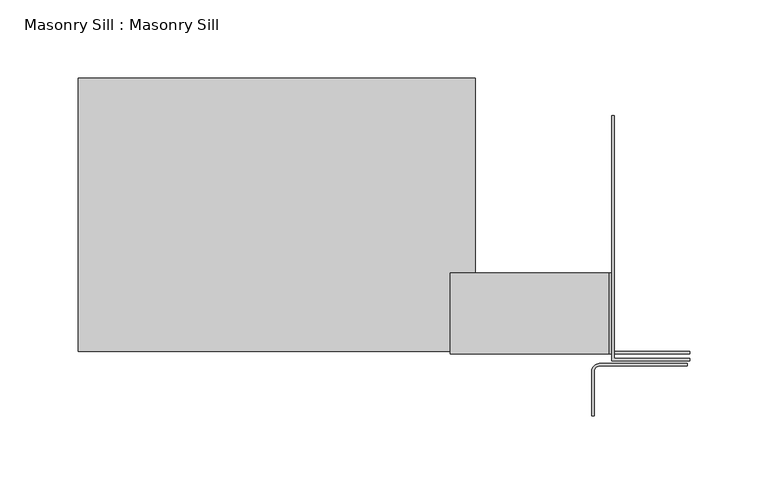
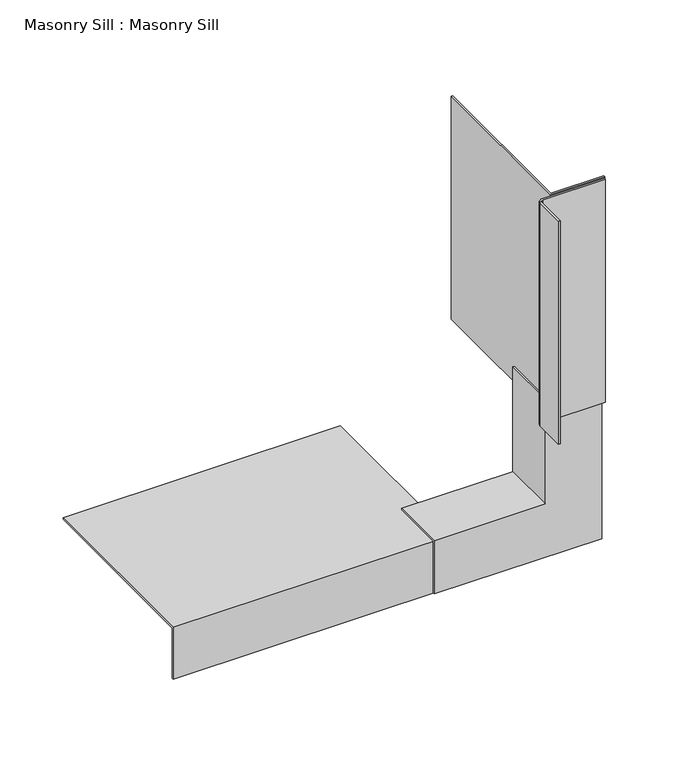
"""IFC4 building model written with IfcOpenShell, lengths in millimetres: proxy geometry, Masonry Sill : Masonry Sill."""

from ifc_helpers import new_model, si_unit, point, frame, frame_2d, origin, place, context, project, spatial, polyline, circle_curve, trimmed, segment, composite_curve, outline, extrude, faceted_brep, source, transform, mapped, element, save


def masonry_sill_masonry_sill_4dd9155f(model_context):
    return source(origin(), model_context, "Body", "SolidModel", [
        extrude(outline(composite_curve([segment(trimmed(circle_curve(frame_2d((26847.9476773, 619.6941297)), 3.175), [point((26847.9476773, 622.8691297))], [point((26844.7726773, 619.6941297))], True, "CARTESIAN"), True, "CONTINUOUS"), segment(polyline([(26844.7726773, 619.6941297), (26844.7726773, 591.1191297), (26843.1851773, 591.1191297), (26843.1851773, 619.6941297)]), True, "CONTINUOUS"), segment(trimmed(circle_curve(frame_2d((26847.9476773, 619.6941297)), 4.7625), [point((26843.1851773, 619.6941297))], [point((26847.9476773, 624.4566297))], False, "CARTESIAN"), True, "CONTINUOUS"), segment(polyline([(26847.9476773, 624.4566297), (26904.3024931, 624.4566297), (26904.3024931, 622.8691297), (26847.9476773, 622.8691297)]), True, "CONTINUOUS")], self_intersect=False)), frame((0.0, 0.0, 546.1), z_axis=(0.0, 0.0, 1.0), x_axis=(1.0, 0.0, 0.0)), (0.0, 0.0, 1.0), 215.9),
        extrude(outline(polyline([(26855.8851773, 626.0441297), (26855.8851773, 783.2066297), (26857.4726773, 783.2066297), (26857.4726773, 627.6316297), (26905.8899931, 627.6316297), (26905.8899931, 626.0441297), (26855.8851773, 626.0441297)])), frame((0.0, 0.0, 546.1), z_axis=(0.0, 0.0, 1.0), x_axis=(1.0, 0.0, 0.0)), (0.0, 0.0, 1.0), 215.9),
        faceted_brep([(26752.6976773, 630.8066297, 408.7826842), (26752.6976773, 630.8066297, 460.375), (26752.6976773, 682.3989454, 460.375), (26752.6976773, 682.3989454, 458.7875), (26752.6976773, 632.3941297, 458.7875), (26752.6976773, 632.3941297, 408.7826842), (26905.8899931, 632.3941297, 408.7826842), (26905.8899931, 630.8066297, 408.7826842), (26855.8851773, 632.3941297, 458.7875), (26855.8851773, 632.3941297, 561.975), (26905.8899931, 632.3941297, 561.975), (26855.8851773, 682.3989454, 458.7875), (26854.2976773, 682.3989454, 460.375), (26854.2976773, 682.3989454, 561.975), (26855.8851773, 682.3989454, 561.975), (26854.2976773, 630.8066297, 460.375), (26905.8899931, 630.8066297, 561.975), (26854.2976773, 630.8066297, 561.975)], [[[0, 1, 2, 3, 4, 5]], [[0, 5, 6, 7]], [[5, 4, 8, 9, 10, 6]], [[4, 3, 11, 8]], [[3, 2, 12, 13, 14, 11]], [[2, 1, 15, 12]], [[1, 0, 7, 16, 17, 15]], [[16, 10, 9, 14, 13, 17]], [[7, 6, 10, 16]], [[8, 11, 14, 9]], [[12, 15, 17, 13]]]),
        extrude(outline(polyline([(632.3941297, 458.7875), (807.2950925, 458.7875), (807.2950925, 457.2), (633.9816297, 457.2), (633.9816297, 408.7826842), (632.3941297, 408.7826842), (632.3941297, 458.7875)])), frame((26514.5726773, 0.0, 0.0), z_axis=(1.0, 0.0, 0.0), x_axis=(0.0, 1.0, 0.0)), (0.0, 0.0, 1.0), 254.0),
    ])


if __name__ == "__main__":
    model = new_model("IFC4")
    model_context = context("Model", 3, world=origin())
    ifc_project = project(units=[si_unit("LENGTHUNIT", "METRE", prefix="MILLI")], contexts=[model_context])
    site = spatial("IfcSite", under=ifc_project)
    building = spatial("IfcBuilding", under=site)
    placement = place(None, origin())
    masonry_sill_masonry_sill_shape = masonry_sill_masonry_sill_4dd9155f(model_context)
    element("IfcBuildingElementProxy", 1, Name="Masonry Sill : Masonry Sill", ObjectType="Masonry Sill : Masonry Sill", at=placement, inside=building, context=model_context, shape_type="MappedRepresentation", body=[
        mapped(masonry_sill_masonry_sill_shape, transform((0.0, 0.0, 0.0), x_axis=(1.0, 0.0, 0.0), y_axis=(0.0, 1.0, 0.0), z_axis=(0.0, 0.0, 1.0))),
    ])
    save(model, "model.ifc")
